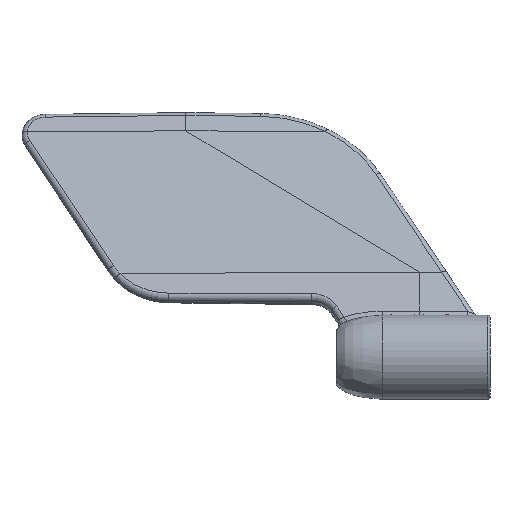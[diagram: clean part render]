
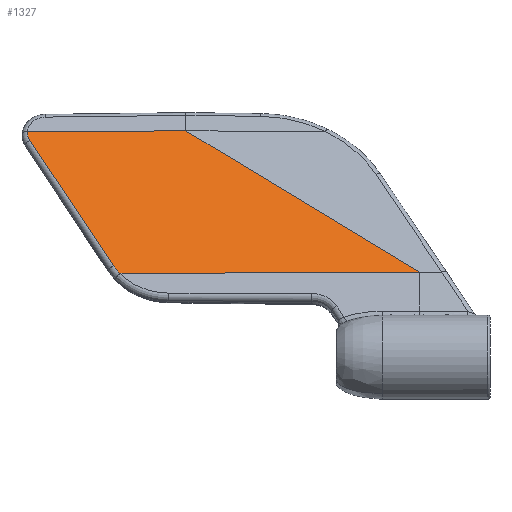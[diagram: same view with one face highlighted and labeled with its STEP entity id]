
A CAD part, left-side view. The second image highlights one B-rep face of the part: STEP entity #1327.
In plain terms, the highlighted planar face has unit normal (-0.867, 0.009, 0.497).
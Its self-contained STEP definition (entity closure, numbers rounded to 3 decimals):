
#29=PLANE('',#1487);
#54=LINE('',#4479,#108);
#72=LINE('',#4974,#126);
#78=LINE('',#5241,#132);
#108=VECTOR('',#1669,1.);
#126=VECTOR('',#1749,1.);
#132=VECTOR('',#1781,1.);
#284=B_SPLINE_CURVE_WITH_KNOTS('',3,(#5220,#5221,#5222,#5223,#5224,#5225,
#5226,#5227),.UNSPECIFIED.,.F.,.F.,(4,2,2,4),(-21.47,-21.426,
-21.388,-21.375),.UNSPECIFIED.);
#345=FACE_OUTER_BOUND('',#433,.T.);
#433=EDGE_LOOP('',(#1130,#1131,#1132,#1133,#1134,#1135,#1136));
#509=CIRCLE('',#1470,3.8);
#513=CIRCLE('',#1477,13.8);
#529=(
BOUNDED_CURVE()
B_SPLINE_CURVE(2,(#5234,#5235,#5236,#5237),.UNSPECIFIED.,.F.,.F.)
B_SPLINE_CURVE_WITH_KNOTS((3,1,3),(954.544,972.661,985.825),
 .UNSPECIFIED.)
CURVE()
GEOMETRIC_REPRESENTATION_ITEM()
RATIONAL_B_SPLINE_CURVE((13.137,10.884,6.837,
5.086))
REPRESENTATION_ITEM('')
);
#592=VERTEX_POINT('',#4476);
#593=VERTEX_POINT('',#4478);
#617=VERTEX_POINT('',#4947);
#619=VERTEX_POINT('',#4966);
#621=VERTEX_POINT('',#4972);
#623=VERTEX_POINT('',#4979);
#627=VERTEX_POINT('',#5232);
#748=EDGE_CURVE('',#592,#593,#54,.F.);
#786=EDGE_CURVE('',#619,#617,#509,.T.);
#789=EDGE_CURVE('',#621,#619,#72,.T.);
#793=EDGE_CURVE('',#623,#621,#513,.T.);
#799=EDGE_CURVE('',#593,#623,#284,.T.);
#803=EDGE_CURVE('',#627,#592,#529,.F.);
#805=EDGE_CURVE('',#617,#627,#78,.T.);
#1130=ORIENTED_EDGE('',*,*,#786,.F.);
#1131=ORIENTED_EDGE('',*,*,#789,.F.);
#1132=ORIENTED_EDGE('',*,*,#793,.F.);
#1133=ORIENTED_EDGE('',*,*,#799,.F.);
#1134=ORIENTED_EDGE('',*,*,#748,.F.);
#1135=ORIENTED_EDGE('',*,*,#803,.F.);
#1136=ORIENTED_EDGE('',*,*,#805,.F.);
#1327=ADVANCED_FACE('',(#345),#29,.F.);
#1470=AXIS2_PLACEMENT_3D('',#4968,#1741,#1742);
#1477=AXIS2_PLACEMENT_3D('',#4981,#1757,#1758);
#1487=AXIS2_PLACEMENT_3D('',#5242,#1782,#1783);
#1669=DIRECTION('',(-0.008,-1.,0.004));
#1741=DIRECTION('center_axis',(0.867,-0.009,-0.498));
#1742=DIRECTION('ref_axis',(-0.242,0.866,-0.437));
#1749=DIRECTION('',(0.435,0.5,0.749));
#1757=DIRECTION('center_axis',(0.867,-0.009,-0.498));
#1758=DIRECTION('ref_axis',(-0.313,0.767,-0.56));
#1781=DIRECTION('',(-0.008,-1.,0.004));
#1782=DIRECTION('center_axis',(0.867,-0.009,-0.498));
#1783=DIRECTION('ref_axis',(-0.498,0.,-0.867));
#4476=CARTESIAN_POINT('',(8.316,15.,18.189));
#4478=CARTESIAN_POINT('',(8.8,79.091,17.91));
#4479=CARTESIAN_POINT('',(8.316,14.999,18.189));
#4947=CARTESIAN_POINT('',(26.397,98.852,48.243));
#4966=CARTESIAN_POINT('',(25.326,98.35,46.385));
#4968=CARTESIAN_POINT('Origin',(26.247,95.059,48.048));
#4972=CARTESIAN_POINT('',(9.782,80.468,19.597));
#4974=CARTESIAN_POINT('',(22.172,94.721,40.949));
#4979=CARTESIAN_POINT('',(8.799,79.101,17.907));
#4981=CARTESIAN_POINT('Origin',(13.124,68.518,25.634));
#5220=CARTESIAN_POINT('Ctrl Pts',(8.8,79.091,17.91));
#5221=CARTESIAN_POINT('Ctrl Pts',(8.8,79.093,17.91));
#5222=CARTESIAN_POINT('Ctrl Pts',(8.8,79.095,17.909));
#5223=CARTESIAN_POINT('Ctrl Pts',(8.8,79.098,17.909));
#5224=CARTESIAN_POINT('Ctrl Pts',(8.799,79.099,17.908));
#5225=CARTESIAN_POINT('Ctrl Pts',(8.799,79.101,17.907));
#5226=CARTESIAN_POINT('Ctrl Pts',(8.799,79.101,17.907));
#5227=CARTESIAN_POINT('Ctrl Pts',(8.799,79.101,17.907));
#5232=CARTESIAN_POINT('',(26.141,65.,48.391));
#5234=CARTESIAN_POINT('Ctrl Pts',(8.316,15.,18.189));
#5235=CARTESIAN_POINT('Ctrl Pts',(10.656,21.541,22.154));
#5236=CARTESIAN_POINT('Ctrl Pts',(18.703,44.11,35.788));
#5237=CARTESIAN_POINT('Ctrl Pts',(26.141,65.,48.391));
#5241=CARTESIAN_POINT('',(26.141,65.,48.391));
#5242=CARTESIAN_POINT('Origin',(26.141,65.,48.391));
